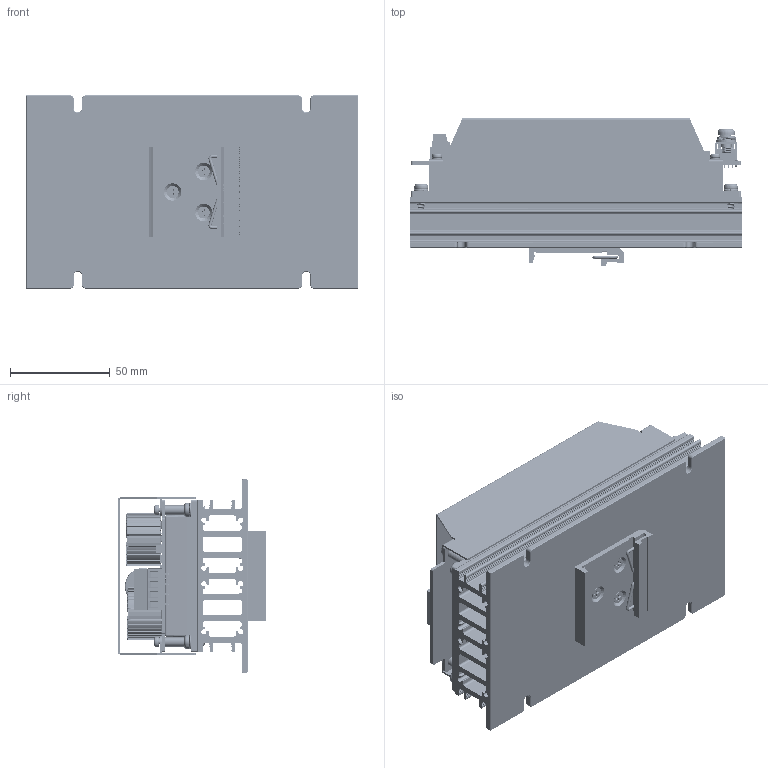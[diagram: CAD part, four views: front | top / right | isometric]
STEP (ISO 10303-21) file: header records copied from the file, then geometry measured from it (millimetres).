
FILE_DESCRIPTION (( 'STEP AP203' ), '1' );
FILE_NAME ('CHB300W-110S CMFD HD 3.3,5V成品圖2025.01.03.STEP', '2025-01-03T08:47:12', ( '' ), ( '' ), 'SwSTEP 2.0', 'SolidWorks 2020', '' );
FILE_SCHEMA (( 'CONFIG_CONTROL_DESIGN' ));
Products named in the file (1): CHB300W-110S CMFD HD 3.3,5V成品圖2025.01.03
Bounding box: 166 x 74.1 x 96.52 mm (x, y, z)
Volume: 320706.5 mm3; surface area: 218734.6 mm2
Topology: 22 solids, 44 shells, 4083 faces, 11233 edges, 7215 vertices
Faces by surface type: plane 1743, cylinder 1235, torus 616, bspline 335, cone 146, sphere 8
Full cylindrical faces by diameter (mm): 0.45 x24, 0.8 x4, 1 x13, 1.2 x5, 1.5 x8, 2 x5, 2.2 x8, 3.2 x11, 3.239 x3, 3.25 x1, 3.264 x1, 3.8 x4, 3.9 x40, 4 x9, 4.2 x3, 4.3 x4, 4.5 x4, 4.6 x4, 4.7 x4, 5 x8, 5.3 x4, 5.5 x4, 6 x3, 7 x4, 10 x4, 12 x1, 12.8 x1, 13 x1, 14 x2, 18.3 x2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
Entity records: 226606 total; most frequent: CARTESIAN_POINT 132480, ORIENTED_EDGE 21266, DIRECTION 17283, EDGE_CURVE 10633, VERTEX_POINT 6981, AXIS2_PLACEMENT_3D 6351, EDGE_LOOP 4650, LINE 4581
